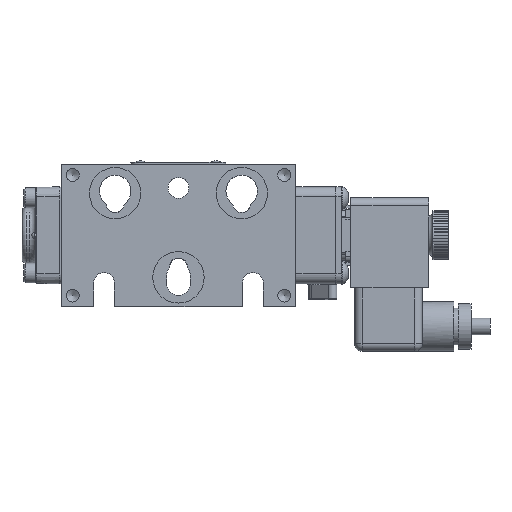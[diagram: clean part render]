
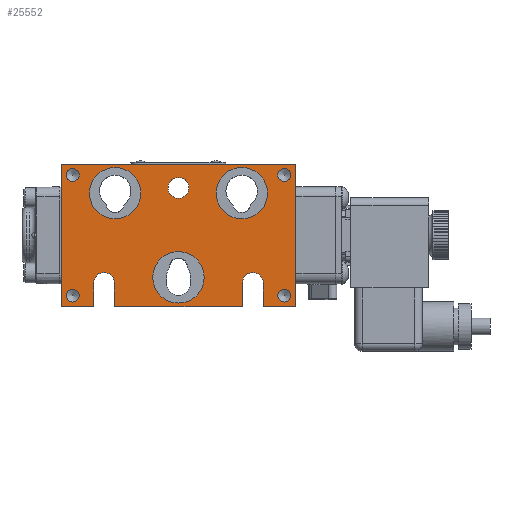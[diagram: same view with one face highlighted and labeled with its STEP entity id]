
A CAD part, top view. The second image highlights one B-rep face of the part: STEP entity #25552.
In plain terms, the highlighted planar face has unit normal (0, 0, 1).
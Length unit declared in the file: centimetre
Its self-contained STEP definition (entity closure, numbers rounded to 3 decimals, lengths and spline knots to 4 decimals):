
#347=FACE_BOUND('',#4155,.T.);
#348=FACE_BOUND('',#4156,.T.);
#349=FACE_BOUND('',#4157,.T.);
#350=FACE_BOUND('',#4158,.T.);
#351=FACE_BOUND('',#4159,.T.);
#352=FACE_BOUND('',#4160,.T.);
#353=FACE_BOUND('',#4161,.T.);
#354=FACE_BOUND('',#4162,.T.);
#1068=CIRCLE('',#27246,0.4166);
#1069=CIRCLE('',#27247,0.4166);
#1070=CIRCLE('',#27248,0.4167);
#1071=CIRCLE('',#27249,1.0312);
#1072=CIRCLE('',#27250,1.0312);
#1073=CIRCLE('',#27251,1.0312);
#1074=CIRCLE('',#27252,0.2578);
#1075=CIRCLE('',#27253,0.2578);
#1076=CIRCLE('',#27254,0.2578);
#1077=CIRCLE('',#27255,0.2578);
#2624=FACE_OUTER_BOUND('',#4154,.T.);
#4154=EDGE_LOOP('',(#16825,#16826,#16827,#16828,#16829,#16830,#16831,#16832,
#16833,#16834,#16835,#16836));
#4155=EDGE_LOOP('',(#16837));
#4156=EDGE_LOOP('',(#16838));
#4157=EDGE_LOOP('',(#16839));
#4158=EDGE_LOOP('',(#16840));
#4159=EDGE_LOOP('',(#16841));
#4160=EDGE_LOOP('',(#16842));
#4161=EDGE_LOOP('',(#16843));
#4162=EDGE_LOOP('',(#16844));
#5975=LINE('',#38681,#7797);
#5976=LINE('',#38683,#7798);
#5977=LINE('',#38685,#7799);
#5978=LINE('',#38687,#7800);
#5979=LINE('',#38691,#7801);
#5980=LINE('',#38693,#7802);
#5981=LINE('',#38695,#7803);
#5982=LINE('',#38699,#7804);
#5983=LINE('',#38701,#7805);
#5984=LINE('',#38702,#7806);
#7797=VECTOR('',#30705,1.);
#7798=VECTOR('',#30706,1.);
#7799=VECTOR('',#30707,1.);
#7800=VECTOR('',#30708,1.);
#7801=VECTOR('',#30711,1.);
#7802=VECTOR('',#30712,1.);
#7803=VECTOR('',#30713,1.);
#7804=VECTOR('',#30716,1.);
#7805=VECTOR('',#30717,1.);
#7806=VECTOR('',#30718,1.);
#10131=VERTEX_POINT('',#38679);
#10132=VERTEX_POINT('',#38680);
#10133=VERTEX_POINT('',#38682);
#10134=VERTEX_POINT('',#38684);
#10135=VERTEX_POINT('',#38686);
#10136=VERTEX_POINT('',#38688);
#10137=VERTEX_POINT('',#38690);
#10138=VERTEX_POINT('',#38692);
#10139=VERTEX_POINT('',#38694);
#10140=VERTEX_POINT('',#38696);
#10141=VERTEX_POINT('',#38698);
#10142=VERTEX_POINT('',#38700);
#10143=VERTEX_POINT('',#38703);
#10144=VERTEX_POINT('',#38705);
#10145=VERTEX_POINT('',#38707);
#10146=VERTEX_POINT('',#38709);
#10147=VERTEX_POINT('',#38711);
#10148=VERTEX_POINT('',#38713);
#10149=VERTEX_POINT('',#38715);
#10150=VERTEX_POINT('',#38717);
#12645=EDGE_CURVE('',#10131,#10132,#5975,.T.);
#12646=EDGE_CURVE('',#10133,#10131,#5976,.T.);
#12647=EDGE_CURVE('',#10134,#10133,#5977,.T.);
#12648=EDGE_CURVE('',#10135,#10134,#5978,.T.);
#12649=EDGE_CURVE('',#10136,#10135,#1068,.T.);
#12650=EDGE_CURVE('',#10137,#10136,#5979,.T.);
#12651=EDGE_CURVE('',#10138,#10137,#5980,.T.);
#12652=EDGE_CURVE('',#10139,#10138,#5981,.T.);
#12653=EDGE_CURVE('',#10140,#10139,#1069,.T.);
#12654=EDGE_CURVE('',#10141,#10140,#5982,.T.);
#12655=EDGE_CURVE('',#10142,#10141,#5983,.T.);
#12656=EDGE_CURVE('',#10132,#10142,#5984,.T.);
#12657=EDGE_CURVE('',#10143,#10143,#1070,.T.);
#12658=EDGE_CURVE('',#10144,#10144,#1071,.T.);
#12659=EDGE_CURVE('',#10145,#10145,#1072,.T.);
#12660=EDGE_CURVE('',#10146,#10146,#1073,.T.);
#12661=EDGE_CURVE('',#10147,#10147,#1074,.T.);
#12662=EDGE_CURVE('',#10148,#10148,#1075,.T.);
#12663=EDGE_CURVE('',#10149,#10149,#1076,.T.);
#12664=EDGE_CURVE('',#10150,#10150,#1077,.T.);
#16825=ORIENTED_EDGE('',*,*,#12645,.F.);
#16826=ORIENTED_EDGE('',*,*,#12646,.F.);
#16827=ORIENTED_EDGE('',*,*,#12647,.F.);
#16828=ORIENTED_EDGE('',*,*,#12648,.F.);
#16829=ORIENTED_EDGE('',*,*,#12649,.F.);
#16830=ORIENTED_EDGE('',*,*,#12650,.F.);
#16831=ORIENTED_EDGE('',*,*,#12651,.F.);
#16832=ORIENTED_EDGE('',*,*,#12652,.F.);
#16833=ORIENTED_EDGE('',*,*,#12653,.F.);
#16834=ORIENTED_EDGE('',*,*,#12654,.F.);
#16835=ORIENTED_EDGE('',*,*,#12655,.F.);
#16836=ORIENTED_EDGE('',*,*,#12656,.F.);
#16837=ORIENTED_EDGE('',*,*,#12657,.T.);
#16838=ORIENTED_EDGE('',*,*,#12658,.T.);
#16839=ORIENTED_EDGE('',*,*,#12659,.T.);
#16840=ORIENTED_EDGE('',*,*,#12660,.T.);
#16841=ORIENTED_EDGE('',*,*,#12661,.T.);
#16842=ORIENTED_EDGE('',*,*,#12662,.T.);
#16843=ORIENTED_EDGE('',*,*,#12663,.T.);
#16844=ORIENTED_EDGE('',*,*,#12664,.T.);
#23261=PLANE('',#27245);
#25552=ADVANCED_FACE('',(#2624,#347,#348,#349,#350,#351,#352,#353,#354),
#23261,.T.);
#27245=AXIS2_PLACEMENT_3D('',#38678,#30703,#30704);
#27246=AXIS2_PLACEMENT_3D('',#38689,#30709,#30710);
#27247=AXIS2_PLACEMENT_3D('',#38697,#30714,#30715);
#27248=AXIS2_PLACEMENT_3D('',#38704,#30719,#30720);
#27249=AXIS2_PLACEMENT_3D('',#38706,#30721,#30722);
#27250=AXIS2_PLACEMENT_3D('',#38708,#30723,#30724);
#27251=AXIS2_PLACEMENT_3D('',#38710,#30725,#30726);
#27252=AXIS2_PLACEMENT_3D('',#38712,#30727,#30728);
#27253=AXIS2_PLACEMENT_3D('',#38714,#30729,#30730);
#27254=AXIS2_PLACEMENT_3D('',#38716,#30731,#30732);
#27255=AXIS2_PLACEMENT_3D('',#38718,#30733,#30734);
#30703=DIRECTION('center_axis',(0.,0.,1.));
#30704=DIRECTION('ref_axis',(1.,0.,0.));
#30705=DIRECTION('',(1.,0.,0.));
#30706=DIRECTION('',(0.,1.,0.));
#30707=DIRECTION('',(-1.,0.,0.));
#30708=DIRECTION('',(0.,-1.,0.));
#30709=DIRECTION('center_axis',(0.,0.,1.));
#30710=DIRECTION('ref_axis',(1.,0.,0.));
#30711=DIRECTION('',(0.,1.,0.));
#30712=DIRECTION('',(-1.,0.,0.));
#30713=DIRECTION('',(0.,-1.,0.));
#30714=DIRECTION('center_axis',(0.,0.,1.));
#30715=DIRECTION('ref_axis',(1.,0.,0.));
#30716=DIRECTION('',(0.,1.,0.));
#30717=DIRECTION('',(-1.,0.,0.));
#30718=DIRECTION('',(0.,-1.,0.));
#30719=DIRECTION('center_axis',(0.,0.,-1.));
#30720=DIRECTION('ref_axis',(1.,0.,0.));
#30721=DIRECTION('center_axis',(0.,0.,-1.));
#30722=DIRECTION('ref_axis',(-1.,0.,0.));
#30723=DIRECTION('center_axis',(0.,0.,-1.));
#30724=DIRECTION('ref_axis',(-1.,0.,0.));
#30725=DIRECTION('center_axis',(0.,0.,-1.));
#30726=DIRECTION('ref_axis',(-1.,0.,0.));
#30727=DIRECTION('center_axis',(0.,0.,-1.));
#30728=DIRECTION('ref_axis',(1.,0.,0.));
#30729=DIRECTION('center_axis',(0.,0.,-1.));
#30730=DIRECTION('ref_axis',(1.,0.,0.));
#30731=DIRECTION('center_axis',(0.,0.,-1.));
#30732=DIRECTION('ref_axis',(1.,0.,0.));
#30733=DIRECTION('center_axis',(0.,0.,-1.));
#30734=DIRECTION('ref_axis',(1.,0.,0.));
#38678=CARTESIAN_POINT('Origin',(0.,-0.2475,
1.6662));
#38679=CARTESIAN_POINT('',(-4.7117,2.8575,1.6662));
#38680=CARTESIAN_POINT('',(4.7117,2.8575,1.6662));
#38681=CARTESIAN_POINT('',(-4.7117,2.8575,1.6662));
#38682=CARTESIAN_POINT('',(-4.7117,-2.8575,1.6662));
#38683=CARTESIAN_POINT('',(-4.7117,-2.8575,1.6662));
#38684=CARTESIAN_POINT('',(-3.4011,-2.8575,1.6662));
#38685=CARTESIAN_POINT('',(-3.4011,-2.8575,1.6662));
#38686=CARTESIAN_POINT('',(-3.4011,-1.905,1.6662));
#38687=CARTESIAN_POINT('',(-3.4011,-1.905,1.6662));
#38688=CARTESIAN_POINT('',(-2.5679,-1.905,1.6662));
#38689=CARTESIAN_POINT('Origin',(-2.9845,-1.905,1.6662));
#38690=CARTESIAN_POINT('',(-2.5679,-2.8575,1.6662));
#38691=CARTESIAN_POINT('',(-2.5679,-2.8575,1.6662));
#38692=CARTESIAN_POINT('',(2.5679,-2.8575,1.6662));
#38693=CARTESIAN_POINT('',(2.5679,-2.8575,1.6662));
#38694=CARTESIAN_POINT('',(2.5679,-1.905,1.6662));
#38695=CARTESIAN_POINT('',(2.5679,-1.905,1.6662));
#38696=CARTESIAN_POINT('',(3.4011,-1.905,1.6662));
#38697=CARTESIAN_POINT('Origin',(2.9845,-1.905,1.6662));
#38698=CARTESIAN_POINT('',(3.4011,-2.8575,1.6662));
#38699=CARTESIAN_POINT('',(3.4011,-2.8575,1.6662));
#38700=CARTESIAN_POINT('',(4.7117,-2.8575,1.6662));
#38701=CARTESIAN_POINT('',(4.7117,-2.8575,1.6662));
#38702=CARTESIAN_POINT('',(4.7117,2.8575,1.6662));
#38703=CARTESIAN_POINT('',(-0.4167,1.905,1.6662));
#38704=CARTESIAN_POINT('Origin',(0.,1.905,1.6662));
#38705=CARTESIAN_POINT('',(3.5712,1.6891,1.6662));
#38706=CARTESIAN_POINT('Origin',(2.54,1.6891,1.6662));
#38707=CARTESIAN_POINT('',(1.0312,-1.6891,1.6662));
#38708=CARTESIAN_POINT('Origin',(0.,-1.6891,1.6662));
#38709=CARTESIAN_POINT('',(-1.5088,1.6891,1.6662));
#38710=CARTESIAN_POINT('Origin',(-2.54,1.6891,1.6662));
#38711=CARTESIAN_POINT('',(3.9891,-2.4206,1.6662));
#38712=CARTESIAN_POINT('Origin',(4.2469,-2.4206,1.6662));
#38713=CARTESIAN_POINT('',(-4.5022,-2.4206,1.6662));
#38714=CARTESIAN_POINT('Origin',(-4.2443,-2.4206,1.6662));
#38715=CARTESIAN_POINT('',(3.9891,2.4206,1.6662));
#38716=CARTESIAN_POINT('Origin',(4.2469,2.4206,1.6662));
#38717=CARTESIAN_POINT('',(-4.5022,2.4206,1.6662));
#38718=CARTESIAN_POINT('Origin',(-4.2443,2.4206,1.6662));
